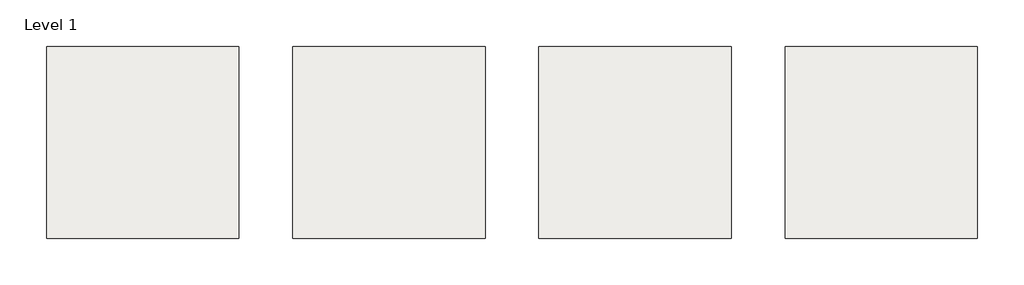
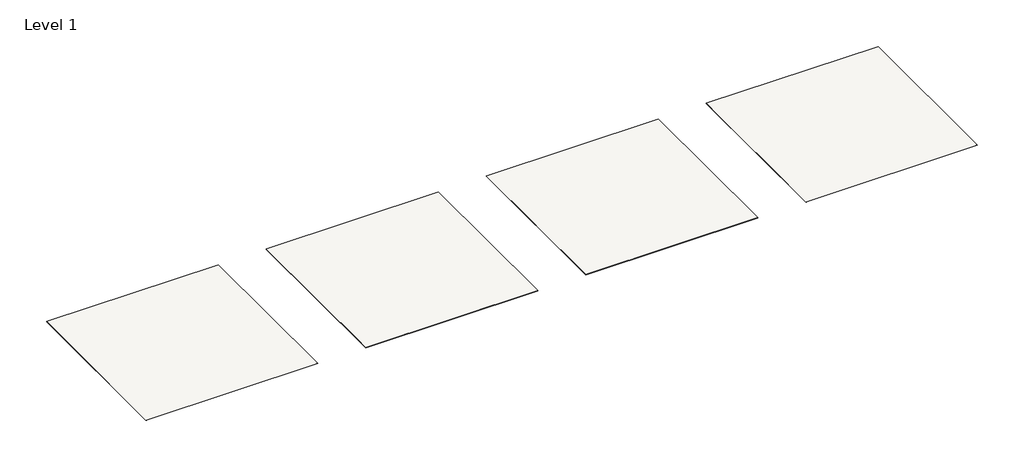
# One storey: 4 coverings.
"""IFC4 building model written with IfcOpenShell, lengths in millimetres."""

from ifc_helpers import new_model, si_unit, frame, origin, place, context, project, spatial, polyline, outline, extrude, element, save

model = new_model("IFC4")

# Units and contexts
model_context = context("Model", 3, world=origin())
ifc_project = project(units=[si_unit("LENGTHUNIT", "METRE", prefix="MILLI")], contexts=[model_context])

# Site, building, storey
site = spatial("IfcSite", under=ifc_project)
building = spatial("IfcBuilding", under=site)
storey = spatial("IfcBuildingStorey", under=building, Name="Level 1", Elevation=0.0)

# Coverings
placement = place(None, origin())
element("IfcCovering", 1, ObjectType="Thesize_Neolith_ Abu Dhabi White_ 3200 x 1500 x 6mm", at=placement, inside=storey, context=model_context, shape_type="SweptSolid", body=[
    extrude(outline(polyline([(-29005.5177483, 13858.4413411), (-29005.5177483, 8858.4413411), (-34005.5177483, 8858.4413411), (-34005.5177483, 13858.4413411), (-29005.5177483, 13858.4413411)])), frame((0.0, 0.0, -6.0), z_axis=(0.0, 0.0, 1.0), x_axis=(1.0, 0.0, 0.0)), (0.0, 0.0, 1.0), 6.0),
])
element("IfcCovering", 2, ObjectType="Thesize_Neolith_ Abu Dhabi White_ 3200 x 1500 x 6mm+", at=placement, inside=storey, context=model_context, shape_type="SweptSolid", body=[
    extrude(outline(polyline([(-22605.5177483, 13858.4413411), (-22605.5177483, 8858.4413411), (-27605.5177483, 8858.4413411), (-27605.5177483, 13858.4413411), (-22605.5177483, 13858.4413411)])), frame((0.0, 0.0, -12.0), z_axis=(0.0, 0.0, 1.0), x_axis=(1.0, 0.0, 0.0)), (0.0, 0.0, 1.0), 12.0),
])
element("IfcCovering", 3, ObjectType="Thesize_Neolith_ Abu Dhabi White_ 3200 x 1600 x 12mm", at=placement, inside=storey, context=model_context, shape_type="SweptSolid", body=[
    extrude(outline(polyline([(-16205.5177483, 13858.4413411), (-16205.5177483, 8858.4413411), (-21205.5177483, 8858.4413411), (-21205.5177483, 13858.4413411), (-16205.5177483, 13858.4413411)])), frame((0.0, 0.0, -6.0), z_axis=(0.0, 0.0, 1.0), x_axis=(1.0, 0.0, 0.0)), (0.0, 0.0, 1.0), 6.0),
])
element("IfcCovering", 4, ObjectType="Thesize_Neolith_ Abu Dhabi White_ 3200 x 1600 x 12mm+", at=placement, inside=storey, context=model_context, shape_type="SweptSolid", body=[
    extrude(outline(polyline([(-9805.5177483, 13858.4413411), (-9805.5177483, 8858.4413411), (-14805.5177483, 8858.4413411), (-14805.5177483, 13858.4413411), (-9805.5177483, 13858.4413411)])), frame((0.0, 0.0, -12.0), z_axis=(0.0, 0.0, 1.0), x_axis=(1.0, 0.0, 0.0)), (0.0, 0.0, 1.0), 12.0),
])

save(model, "model.ifc")
